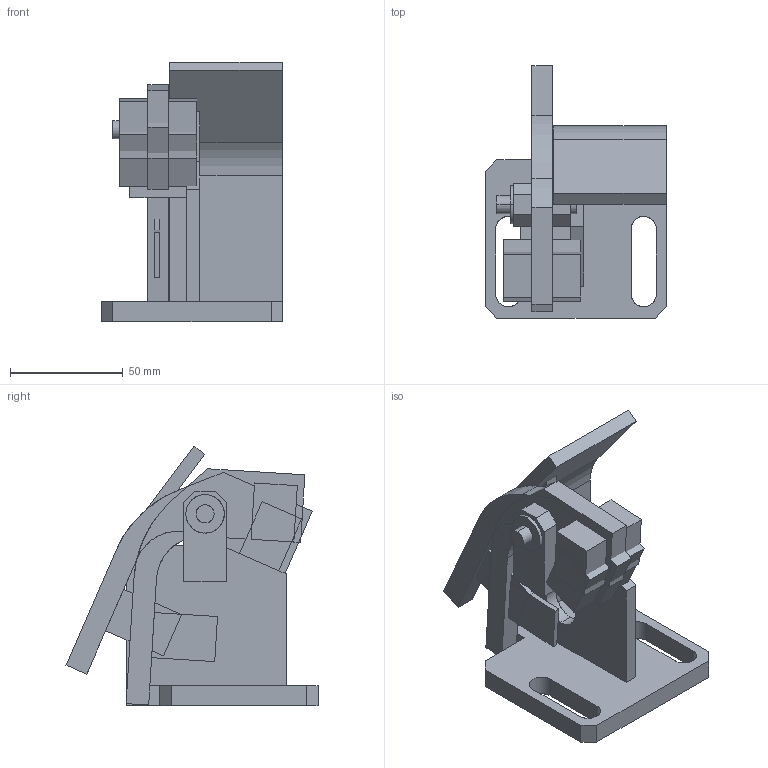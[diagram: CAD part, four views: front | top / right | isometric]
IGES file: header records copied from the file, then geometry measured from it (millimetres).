
Global section: file name: E:\UnigraphicsGraphicData\MISUMI_PRESS-PARTS\IGES\3d_pacoan-l75-m10_04922_r00.igs; native system: NX V5.0; preprocessor: UGS NX IGES V5.0; author: MISUMI; date: 20110105.162213; units: millimetre
Bounding box: 80 x 111.58 x 115 mm (x, y, z)
Surface area: 63849.9 mm2 (no closed solid volume)
Topology: 0 solids, 0 shells, 112 faces, 727 edges, 727 vertices
Faces by surface type: bspline 112
